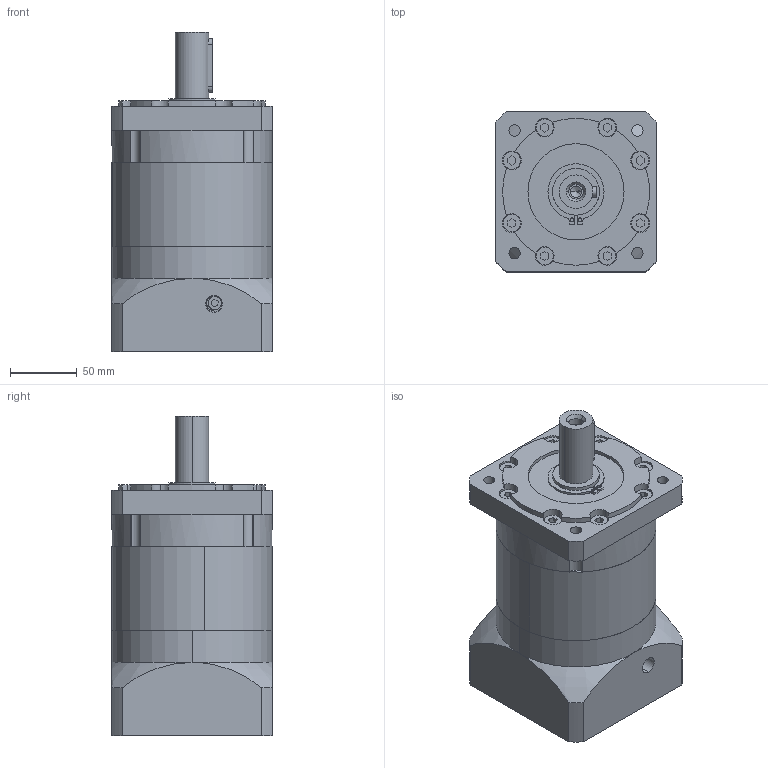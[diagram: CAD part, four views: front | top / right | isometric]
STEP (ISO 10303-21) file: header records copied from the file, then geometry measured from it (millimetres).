
FILE_DESCRIPTION (( 'STEP AP203' ), '1' );
FILE_NAME ('PRF120-L2 LR62.5.STEP', '2021-05-16T02:15:22', ( '微软用户' ), ( '微软中国' ), 'SwSTEP 2.0', 'SolidWorks 2014', '' );
FILE_SCHEMA (( 'CONFIG_CONTROL_DESIGN' ));
Length unit declared in the file: millimetre
Products named in the file (8): PRF120 狟屳唳; 囀鞠褒蹟佪 M6x20; PRF120 蟀諉啣-LR62.5; 粣創-6007 40x68x15; 邧埴瑩 8x7x40; PRF120 內齿圈-优化_二级内齿圈; PRF120-L2 LR62.5; PRF120 奻屳唳
Assembly tree (7 placements, depth 2):
  PRF120-L2 LR62.5
    囀鞠褒蹟佪 M6x20
    PRF120 蟀諉啣-LR62.5
    PRF120 內齿圈-优化_二级内齿圈
    PRF120 奻屳唳
    PRF120 狟屳唳
    粣創-6007 40x68x15
    邧埴瑩 8x7x40
Bounding box: 120 x 120 x 239.5 mm (x, y, z)
Volume: 2087248.5 mm3; surface area: 249228.2 mm2
Topology: 7 solids, 15 shells, 571 faces, 1524 edges, 999 vertices
Faces by surface type: cylinder 206, plane 203, sphere 96, torus 52, cone 14
Entity records: 22547 total; most frequent: CARTESIAN_POINT 7334, DIRECTION 3048, ORIENTED_EDGE 3028, EDGE_CURVE 1514, AXIS2_PLACEMENT_3D 1284, VERTEX_POINT 999, CIRCLE 703, EDGE_LOOP 673
